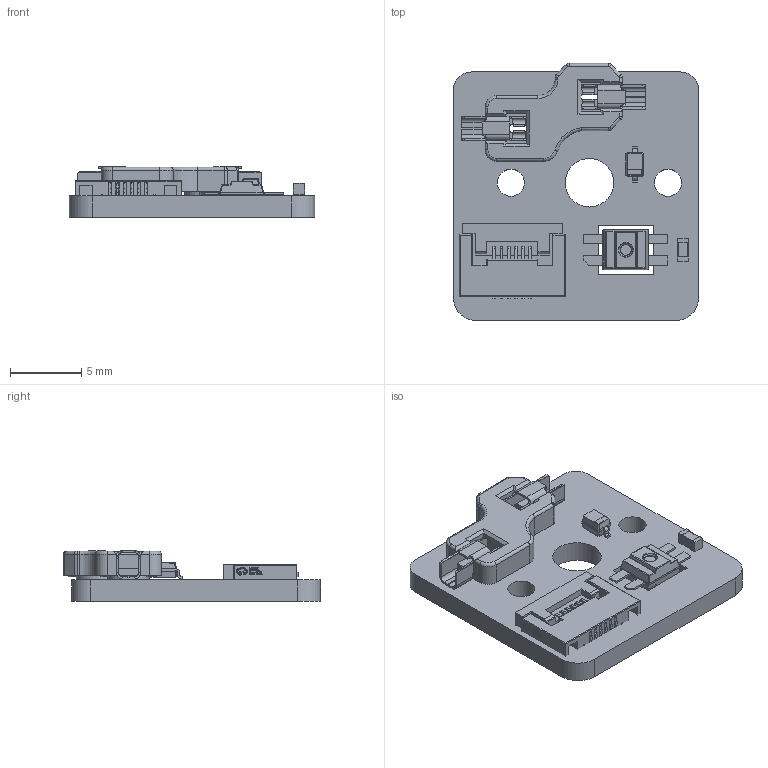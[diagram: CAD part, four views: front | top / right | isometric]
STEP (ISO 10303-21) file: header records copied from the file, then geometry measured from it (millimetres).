
FILE_DESCRIPTION(('KiCad electronic assembly'),'2;1');
FILE_NAME('FPC-assembly.step','2026-10-01T08:51:18',('Pcbnew'),('Kicad') ,'Open CASCADE STEP processor 7.9','KiCad to STEP converter','Unknown' );
FILE_SCHEMA(('AUTOMOTIVE_DESIGN { 1 0 10303 214 1 1 1 1 }'));
Length unit declared in the file: millimetre
Products named in the file (9): FPC-assembly 1; D_SOD-323; LED_SK6812MINI-E; FPC-SMD_6P-P0.50_HC-FPC-0.5-6P-FH20; HS_CPG135001S30_Choc; pin; socket; C_0603_1608Metric; AdafruitNeoKeyChocSocketBreakout_PCB
Assembly tree (9 placements, depth 3):
  FPC-assembly 1
    D_SOD-323
    LED_SK6812MINI-E
    FPC-SMD_6P-P0.50_HC-FPC-0.5-6P-FH20
    HS_CPG135001S30_Choc
      pin  x2
      socket
    C_0603_1608Metric
    AdafruitNeoKeyChocSocketBreakout_PCB
Bounding box: 17.17 x 18 x 3.55 mm (x, y, z)
Volume: 524.2 mm3; surface area: 1324.4 mm2
Topology: 21 solids, 21 shells, 1102 faces, 2884 edges, 1840 vertices
Faces by surface type: plane 695, cylinder 206, bspline 162, torus 14, sphere 13, cone 12
Full cylindrical faces by diameter (mm): 1.9 x2, 2.9 x2, 3 x2, 3.4 x1
Entity records: 36480 total; most frequent: CARTESIAN_POINT 7368, ORIENTED_EDGE 5296, DIRECTION 4509, EDGE_CURVE 2648, LINE 1975, VECTOR 1975, VERTEX_POINT 1694, AXIS2_PLACEMENT_3D 1267
